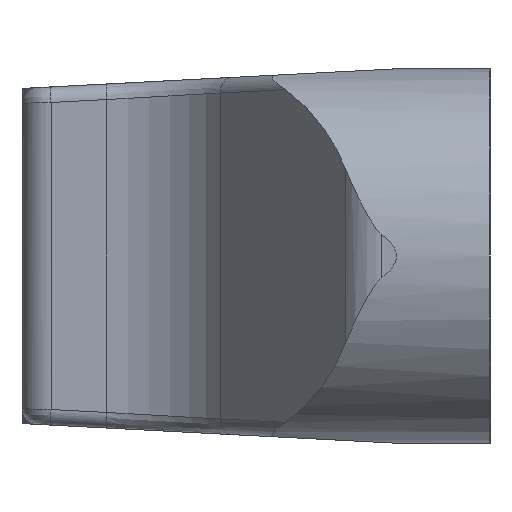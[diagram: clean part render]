
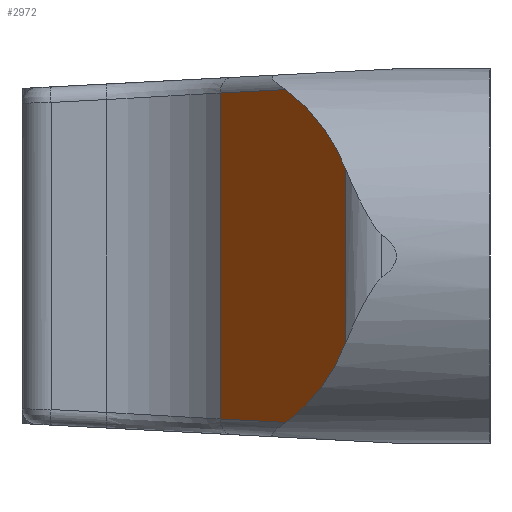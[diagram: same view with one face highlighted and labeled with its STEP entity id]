
A CAD part, left-side view. The second image highlights one B-rep face of the part: STEP entity #2972.
In plain terms, the highlighted planar face has unit normal (-0.602, 0.798, 0).
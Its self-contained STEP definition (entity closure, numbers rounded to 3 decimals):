
#22 = ORIENTED_EDGE ( 'NONE', *, *, #8721, .F. ) ;
#128 = VERTEX_POINT ( 'NONE', #450 ) ;
#375 = DIRECTION ( 'NONE',  ( 0.602, -0.798, 0. ) ) ;
#450 = CARTESIAN_POINT ( 'NONE',  ( 12.05, 11.302, 10.448 ) ) ;
#683 = EDGE_CURVE ( 'NONE', #8652, #6144, #6762, .T. ) ;
#754 = ORIENTED_EDGE ( 'NONE', *, *, #2118, .F. ) ;
#782 = DIRECTION ( 'NONE',  ( 0., 0., -1. ) ) ;
#1031 = CARTESIAN_POINT ( 'NONE',  ( 1.361, 3.242, 5.551 ) ) ;
#1089 = VECTOR ( 'NONE', #782, 1000. ) ;
#1593 = DIRECTION ( 'NONE',  ( 0., 0., -1. ) ) ;
#2002 = EDGE_CURVE ( 'NONE', #128, #6144, #6825, .T. ) ;
#2028 = FACE_OUTER_BOUND ( 'NONE', #6641, .T. ) ;
#2118 = EDGE_CURVE ( 'NONE', #7209, #3401, #6337, .T. ) ;
#2204 = ORIENTED_EDGE ( 'NONE', *, *, #683, .F. ) ;
#2220 = CARTESIAN_POINT ( 'NONE',  ( 1.361, 3.242, 12. ) ) ;
#2269 = CARTESIAN_POINT ( 'NONE',  ( 2.516, 4.113, -7.764 ) ) ;
#2454 =( BOUNDED_CURVE ( )  B_SPLINE_CURVE ( 3, ( #4301, #6948, #7648, #4958 ),
 .UNSPECIFIED., .F., .F. ) 
 B_SPLINE_CURVE_WITH_KNOTS ( ( 4, 4 ),
 ( 5.188, 5.802 ),
 .UNSPECIFIED. ) 
 CURVE ( )  GEOMETRIC_REPRESENTATION_ITEM ( )  RATIONAL_B_SPLINE_CURVE ( ( 1., 0.969, 0.969, 1. ) ) 
 REPRESENTATION_ITEM ( '' )  );
#2782 = VECTOR ( 'NONE', #1593, 1000. ) ;
#2837 = CARTESIAN_POINT ( 'NONE',  ( 12.026, 11.284, 10.449 ) ) ;
#2972 = ADVANCED_FACE ( 'NONE', ( #2028 ), #4396, .F. ) ;
#2981 = VECTOR ( 'NONE', #5479, 1000. ) ;
#3193 = CARTESIAN_POINT ( 'NONE',  ( 12.05, 11.302, -10.448 ) ) ;
#3304 = EDGE_CURVE ( 'NONE', #7607, #7209, #2454, .T. ) ;
#3394 = CARTESIAN_POINT ( 'NONE',  ( 8.684, 8.764, -10.581 ) ) ;
#3401 = VERTEX_POINT ( 'NONE', #7042 ) ;
#3623 = CARTESIAN_POINT ( 'NONE',  ( 6.504, 7.12, -10.667 ) ) ;
#3770 = ORIENTED_EDGE ( 'NONE', *, *, #3304, .F. ) ;
#4148 = CARTESIAN_POINT ( 'NONE',  ( 12.05, 11.302, 12. ) ) ;
#4301 = CARTESIAN_POINT ( 'NONE',  ( 6.504, 7.12, 10.667 ) ) ;
#4369 = AXIS2_PLACEMENT_3D ( 'NONE', #4421, #375, #5083 ) ;
#4396 = PLANE ( 'NONE',  #4369 ) ;
#4421 = CARTESIAN_POINT ( 'NONE',  ( 12.05, 11.302, 12. ) ) ;
#4958 = CARTESIAN_POINT ( 'NONE',  ( 1.361, 3.242, 5.551 ) ) ;
#5083 = DIRECTION ( 'NONE',  ( 0.798, 0.602, 0. ) ) ;
#5452 = VECTOR ( 'NONE', #8250, 1000. ) ;
#5479 = DIRECTION ( 'NONE',  ( 0.798, 0.602, 0.032 ) ) ;
#6144 = VERTEX_POINT ( 'NONE', #3193 ) ;
#6337 = LINE ( 'NONE', #2220, #2782 ) ;
#6399 =( BOUNDED_CURVE ( )  B_SPLINE_CURVE ( 3, ( #6942, #2269, #7642, #3623 ),
 .UNSPECIFIED., .F., .F. ) 
 B_SPLINE_CURVE_WITH_KNOTS ( ( 4, 4 ),
 ( 0.481, 1.095 ),
 .UNSPECIFIED. ) 
 CURVE ( )  GEOMETRIC_REPRESENTATION_ITEM ( )  RATIONAL_B_SPLINE_CURVE ( ( 1., 0.969, 0.969, 1. ) ) 
 REPRESENTATION_ITEM ( '' )  );
#6641 = EDGE_LOOP ( 'NONE', ( #8310, #2204, #22, #754, #3770, #7780 ) ) ;
#6761 = EDGE_CURVE ( 'NONE', #128, #7607, #7903, .T. ) ;
#6762 = LINE ( 'NONE', #3394, #2981 ) ;
#6825 = LINE ( 'NONE', #4148, #1089 ) ;
#6942 = CARTESIAN_POINT ( 'NONE',  ( 1.361, 3.242, -5.551 ) ) ;
#6948 = CARTESIAN_POINT ( 'NONE',  ( 4.285, 5.447, 9.524 ) ) ;
#7042 = CARTESIAN_POINT ( 'NONE',  ( 1.361, 3.242, -5.551 ) ) ;
#7209 = VERTEX_POINT ( 'NONE', #1031 ) ;
#7580 = CARTESIAN_POINT ( 'NONE',  ( 6.504, 7.12, -10.667 ) ) ;
#7607 = VERTEX_POINT ( 'NONE', #7822 ) ;
#7642 = CARTESIAN_POINT ( 'NONE',  ( 4.285, 5.447, -9.524 ) ) ;
#7648 = CARTESIAN_POINT ( 'NONE',  ( 2.516, 4.113, 7.764 ) ) ;
#7780 = ORIENTED_EDGE ( 'NONE', *, *, #6761, .F. ) ;
#7822 = CARTESIAN_POINT ( 'NONE',  ( 6.504, 7.12, 10.667 ) ) ;
#7903 = LINE ( 'NONE', #2837, #5452 ) ;
#8250 = DIRECTION ( 'NONE',  ( -0.798, -0.602, 0.032 ) ) ;
#8310 = ORIENTED_EDGE ( 'NONE', *, *, #2002, .T. ) ;
#8652 = VERTEX_POINT ( 'NONE', #7580 ) ;
#8721 = EDGE_CURVE ( 'NONE', #3401, #8652, #6399, .T. ) ;
